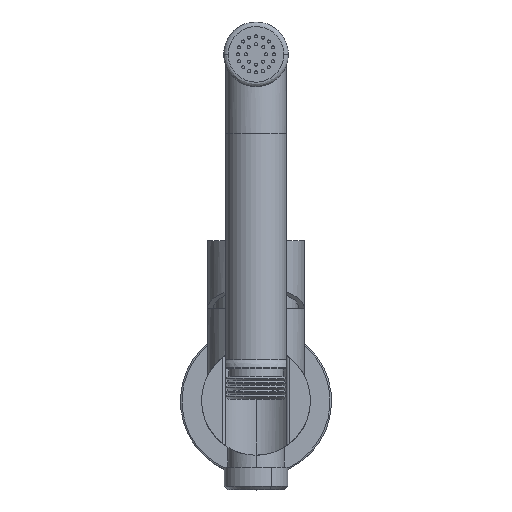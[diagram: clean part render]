
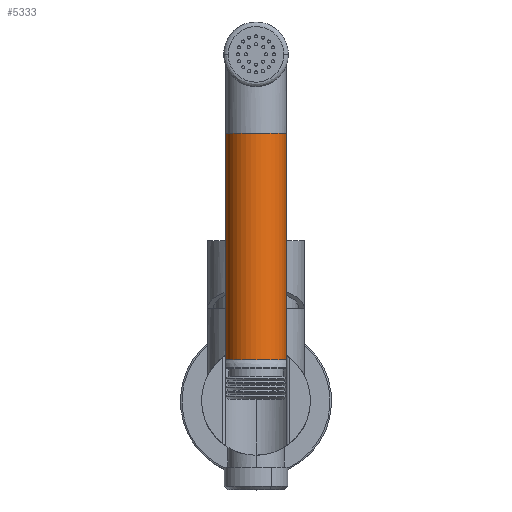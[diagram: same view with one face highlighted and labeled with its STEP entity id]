
A CAD part, top view. The second image highlights one B-rep face of the part: STEP entity #5333.
In plain terms, the highlighted cylindrical face has radius 10 mm (diameter 20 mm), a partial arc.
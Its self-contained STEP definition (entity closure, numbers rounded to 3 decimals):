
#49 = VECTOR ( 'NONE', #3855, 1000. ) ;
#376 = ORIENTED_EDGE ( 'NONE', *, *, #6166, .T. ) ;
#726 = EDGE_CURVE ( 'NONE', #6366, #6062, #2654, .T. ) ;
#1001 = AXIS2_PLACEMENT_3D ( 'NONE', #5648, #4713, #5303 ) ;
#1106 = DIRECTION ( 'NONE',  ( 0., -1., 0. ) ) ;
#1266 = AXIS2_PLACEMENT_3D ( 'NONE', #4251, #1106, #2274 ) ;
#1682 = ORIENTED_EDGE ( 'NONE', *, *, #5925, .T. ) ;
#2272 = VERTEX_POINT ( 'NONE', #6079 ) ;
#2274 = DIRECTION ( 'NONE',  ( 1., 0., 0. ) ) ;
#2306 = CARTESIAN_POINT ( 'NONE',  ( 0., 13.5, 96.85 ) ) ;
#2347 = DIRECTION ( 'NONE',  ( 0., 1., 0. ) ) ;
#2439 = CIRCLE ( 'NONE', #1001, 10. ) ;
#2482 = CARTESIAN_POINT ( 'NONE',  ( -10., 13.5, 96.85 ) ) ;
#2574 = CARTESIAN_POINT ( 'NONE',  ( 10., 88.5, 96.85 ) ) ;
#2654 = LINE ( 'NONE', #2574, #49 ) ;
#2799 = CARTESIAN_POINT ( 'NONE',  ( 10., 13.5, 96.85 ) ) ;
#3855 = DIRECTION ( 'NONE',  ( 0., -1., 0. ) ) ;
#3913 = CIRCLE ( 'NONE', #4724, 10. ) ;
#3944 = EDGE_LOOP ( 'NONE', ( #1682, #376, #6912, #7114 ) ) ;
#4163 = DIRECTION ( 'NONE',  ( 0., -1., 0. ) ) ;
#4251 = CARTESIAN_POINT ( 'NONE',  ( 0., 88.5, 96.85 ) ) ;
#4713 = DIRECTION ( 'NONE',  ( 0., -1., 0. ) ) ;
#4724 = AXIS2_PLACEMENT_3D ( 'NONE', #2306, #2347, #7236 ) ;
#4804 = CYLINDRICAL_SURFACE ( 'NONE', #1266, 10. ) ;
#4887 = LINE ( 'NONE', #7389, #5606 ) ;
#5167 = CARTESIAN_POINT ( 'NONE',  ( 10., 88.5, 96.85 ) ) ;
#5303 = DIRECTION ( 'NONE',  ( 1., 0., 0. ) ) ;
#5333 = ADVANCED_FACE ( 'NONE', ( #6048 ), #4804, .T. ) ;
#5606 = VECTOR ( 'NONE', #4163, 1000. ) ;
#5648 = CARTESIAN_POINT ( 'NONE',  ( 0., 88.5, 96.85 ) ) ;
#5925 = EDGE_CURVE ( 'NONE', #6366, #2272, #2439, .T. ) ;
#6048 = FACE_OUTER_BOUND ( 'NONE', #3944, .T. ) ;
#6062 = VERTEX_POINT ( 'NONE', #2799 ) ;
#6079 = CARTESIAN_POINT ( 'NONE',  ( -10., 88.5, 96.85 ) ) ;
#6166 = EDGE_CURVE ( 'NONE', #2272, #7273, #4887, .T. ) ;
#6366 = VERTEX_POINT ( 'NONE', #5167 ) ;
#6912 = ORIENTED_EDGE ( 'NONE', *, *, #7692, .T. ) ;
#7114 = ORIENTED_EDGE ( 'NONE', *, *, #726, .F. ) ;
#7236 = DIRECTION ( 'NONE',  ( 1., 0., 0. ) ) ;
#7273 = VERTEX_POINT ( 'NONE', #2482 ) ;
#7389 = CARTESIAN_POINT ( 'NONE',  ( -10., 88.5, 96.85 ) ) ;
#7692 = EDGE_CURVE ( 'NONE', #7273, #6062, #3913, .T. ) ;
